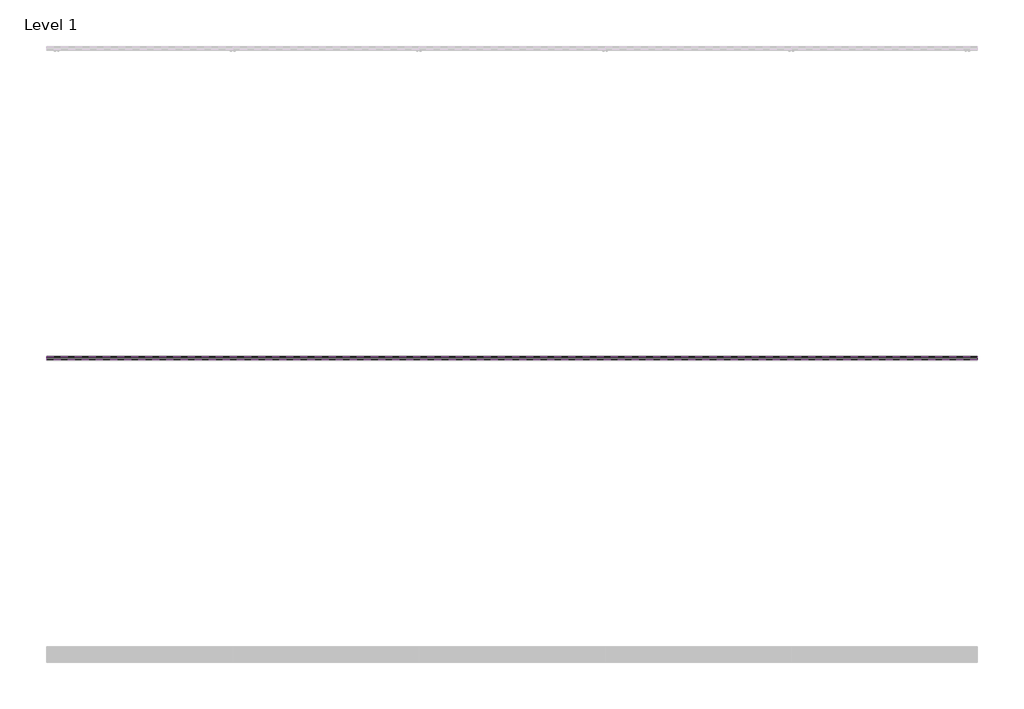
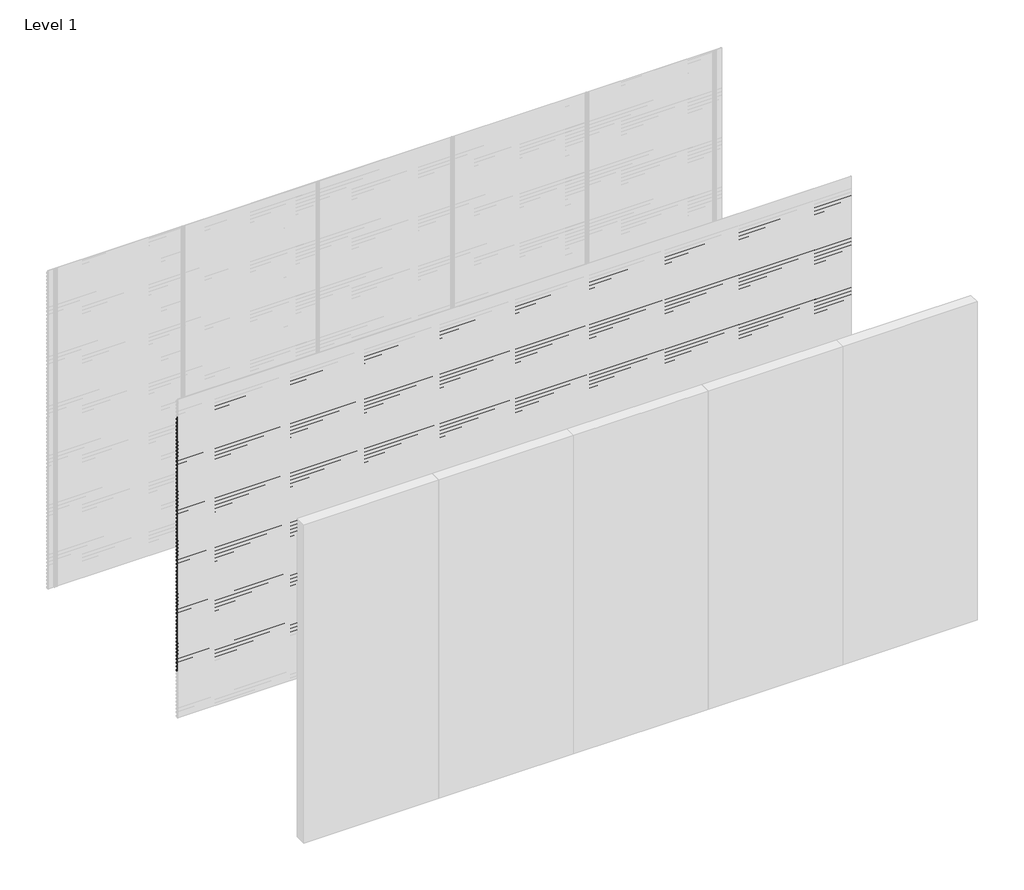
# One storey, part 71 of 77: 72 proxies.
"""IFC4 building model written with IfcOpenShell, lengths in millimetres."""

from ifc_helpers import new_model, si_unit, frame, origin, place, context, project, spatial, polyline, outline, extrude, element, save

model = new_model("IFC4")

# Units and contexts
model_context = context("Model", 3, world=origin())
ifc_project = project(units=[si_unit("LENGTHUNIT", "METRE", prefix="MILLI")], contexts=[model_context])

# Site, building, storey
site = spatial("IfcSite", under=ifc_project)
building = spatial("IfcBuilding", under=site)
storey = spatial("IfcBuildingStorey", under=building, Name="Level 1", Elevation=0.0)

# Proxies
placement = place(None, origin())
element("IfcBuildingElementProxy", 1, Name="Wall Sweeps", at=placement, inside=storey, context=model_context, shape_type="SweptSolid", body=[
    extrude(outline(polyline([(-1978.6, 2806.0359887), (-1998.0, 2817.2366691), (-1998.0, 2830.5), (-1997.0, 2830.5), (-1997.0, 2817.8191057), (-1977.6, 2806.6185105), (-1977.6, 2793.0185105), (-1978.6, 2794.5953129), (-1978.6, 2800.4032062), (-1995.9773817, 2792.3), (-1996.4, 2793.2063078), (-1978.6, 2801.5065841), (-1978.6, 2806.0359887)])), frame((0.0, 0.0, 0.0), z_axis=(1.0, 0.0, 0.0), x_axis=(0.0, 1.0, 0.0)), (0.0, 0.0, 1.0), 6000.0),
])
element("IfcBuildingElementProxy", 2, Name="Wall Sweeps", at=placement, inside=storey, context=model_context, shape_type="SweptSolid", body=[
    extrude(outline(polyline([(-1978.6, 2772.7359887), (-1998.0, 2783.9366691), (-1998.0, 2797.2), (-1997.0, 2797.2), (-1997.0, 2784.5191057), (-1977.6, 2773.3185105), (-1977.6, 2759.7185105), (-1978.6, 2761.2953129), (-1978.6, 2767.1032062), (-1995.9773817, 2759.0), (-1996.4, 2759.9063078), (-1978.6, 2768.2065841), (-1978.6, 2772.7359887)])), frame((0.0, 0.0, 0.0), z_axis=(1.0, 0.0, 0.0), x_axis=(0.0, 1.0, 0.0)), (0.0, 0.0, 1.0), 6000.0),
])
element("IfcBuildingElementProxy", 3, Name="Wall Sweeps", at=placement, inside=storey, context=model_context, shape_type="SweptSolid", body=[
    extrude(outline(polyline([(-1978.6, 2739.4359887), (-1998.0, 2750.6366691), (-1998.0, 2763.9), (-1997.0, 2763.9), (-1997.0, 2751.2191057), (-1977.6, 2740.0185105), (-1977.6, 2726.4185105), (-1978.6, 2727.9953129), (-1978.6, 2733.8032062), (-1995.9773817, 2725.7), (-1996.4, 2726.6063078), (-1978.6, 2734.9065841), (-1978.6, 2739.4359887)])), frame((0.0, 0.0, 0.0), z_axis=(1.0, 0.0, 0.0), x_axis=(0.0, 1.0, 0.0)), (0.0, 0.0, 1.0), 6000.0),
])
element("IfcBuildingElementProxy", 4, Name="Wall Sweeps", at=placement, inside=storey, context=model_context, shape_type="SweptSolid", body=[
    extrude(outline(polyline([(-1978.6, 2706.1359887), (-1998.0, 2717.3366691), (-1998.0, 2730.6), (-1997.0, 2730.6), (-1997.0, 2717.9191057), (-1977.6, 2706.7185105), (-1977.6, 2693.1185105), (-1978.6, 2694.6953129), (-1978.6, 2700.5032062), (-1995.9773817, 2692.4), (-1996.4, 2693.3063078), (-1978.6, 2701.6065841), (-1978.6, 2706.1359887)])), frame((0.0, 0.0, 0.0), z_axis=(1.0, 0.0, 0.0), x_axis=(0.0, 1.0, 0.0)), (0.0, 0.0, 1.0), 6000.0),
])
element("IfcBuildingElementProxy", 5, Name="Wall Sweeps", at=placement, inside=storey, context=model_context, shape_type="SweptSolid", body=[
    extrude(outline(polyline([(-1978.6, 2672.8359887), (-1998.0, 2684.0366691), (-1998.0, 2697.3), (-1997.0, 2697.3), (-1997.0, 2684.6191057), (-1977.6, 2673.4185105), (-1977.6, 2659.8185105), (-1978.6, 2661.3953129), (-1978.6, 2667.2032062), (-1995.9773817, 2659.1), (-1996.4, 2660.0063078), (-1978.6, 2668.3065841), (-1978.6, 2672.8359887)])), frame((0.0, 0.0, 0.0), z_axis=(1.0, 0.0, 0.0), x_axis=(0.0, 1.0, 0.0)), (0.0, 0.0, 1.0), 6000.0),
])
element("IfcBuildingElementProxy", 6, Name="Wall Sweeps", at=placement, inside=storey, context=model_context, shape_type="SweptSolid", body=[
    extrude(outline(polyline([(-1978.6, 2639.5359887), (-1998.0, 2650.7366691), (-1998.0, 2664.0), (-1997.0, 2664.0), (-1997.0, 2651.3191057), (-1977.6, 2640.1185105), (-1977.6, 2626.5185105), (-1978.6, 2628.0953129), (-1978.6, 2633.9032062), (-1995.9773817, 2625.8), (-1996.4, 2626.7063078), (-1978.6, 2635.0065841), (-1978.6, 2639.5359887)])), frame((0.0, 0.0, 0.0), z_axis=(1.0, 0.0, 0.0), x_axis=(0.0, 1.0, 0.0)), (0.0, 0.0, 1.0), 6000.0),
])
element("IfcBuildingElementProxy", 7, Name="Wall Sweeps", at=placement, inside=storey, context=model_context, shape_type="SweptSolid", body=[
    extrude(outline(polyline([(-1978.6, 2606.2359887), (-1998.0, 2617.4366691), (-1998.0, 2630.7), (-1997.0, 2630.7), (-1997.0, 2618.0191057), (-1977.6, 2606.8185105), (-1977.6, 2593.2185105), (-1978.6, 2594.7953129), (-1978.6, 2600.6032062), (-1995.9773817, 2592.5), (-1996.4, 2593.4063078), (-1978.6, 2601.7065841), (-1978.6, 2606.2359887)])), frame((0.0, 0.0, 0.0), z_axis=(1.0, 0.0, 0.0), x_axis=(0.0, 1.0, 0.0)), (0.0, 0.0, 1.0), 6000.0),
])
element("IfcBuildingElementProxy", 8, Name="Wall Sweeps", at=placement, inside=storey, context=model_context, shape_type="SweptSolid", body=[
    extrude(outline(polyline([(-1978.6, 2572.9359887), (-1998.0, 2584.1366691), (-1998.0, 2597.4), (-1997.0, 2597.4), (-1997.0, 2584.7191057), (-1977.6, 2573.5185105), (-1977.6, 2559.9185105), (-1978.6, 2561.4953129), (-1978.6, 2567.3032062), (-1995.9773817, 2559.2), (-1996.4, 2560.1063078), (-1978.6, 2568.4065841), (-1978.6, 2572.9359887)])), frame((0.0, 0.0, 0.0), z_axis=(1.0, 0.0, 0.0), x_axis=(0.0, 1.0, 0.0)), (0.0, 0.0, 1.0), 6000.0),
])
element("IfcBuildingElementProxy", 9, Name="Wall Sweeps", at=placement, inside=storey, context=model_context, shape_type="SweptSolid", body=[
    extrude(outline(polyline([(-1978.6, 2539.6359887), (-1998.0, 2550.8366691), (-1998.0, 2564.1), (-1997.0, 2564.1), (-1997.0, 2551.4191057), (-1977.6, 2540.2185105), (-1977.6, 2526.6185105), (-1978.6, 2528.1953129), (-1978.6, 2534.0032062), (-1995.9773817, 2525.9), (-1996.4, 2526.8063078), (-1978.6, 2535.1065841), (-1978.6, 2539.6359887)])), frame((0.0, 0.0, 0.0), z_axis=(1.0, 0.0, 0.0), x_axis=(0.0, 1.0, 0.0)), (0.0, 0.0, 1.0), 6000.0),
])
element("IfcBuildingElementProxy", 10, Name="Wall Sweeps", at=placement, inside=storey, context=model_context, shape_type="SweptSolid", body=[
    extrude(outline(polyline([(-1978.6, 2506.3359887), (-1998.0, 2517.5366691), (-1998.0, 2530.8), (-1997.0, 2530.8), (-1997.0, 2518.1191057), (-1977.6, 2506.9185105), (-1977.6, 2493.3185105), (-1978.6, 2494.8953129), (-1978.6, 2500.7032062), (-1995.9773817, 2492.6), (-1996.4, 2493.5063078), (-1978.6, 2501.8065841), (-1978.6, 2506.3359887)])), frame((0.0, 0.0, 0.0), z_axis=(1.0, 0.0, 0.0), x_axis=(0.0, 1.0, 0.0)), (0.0, 0.0, 1.0), 6000.0),
])
element("IfcBuildingElementProxy", 11, Name="Wall Sweeps", at=placement, inside=storey, context=model_context, shape_type="SweptSolid", body=[
    extrude(outline(polyline([(-1978.6, 2473.0359887), (-1998.0, 2484.2366691), (-1998.0, 2497.5), (-1997.0, 2497.5), (-1997.0, 2484.8191057), (-1977.6, 2473.6185105), (-1977.6, 2460.0185105), (-1978.6, 2461.5953129), (-1978.6, 2467.4032062), (-1995.9773817, 2459.3), (-1996.4, 2460.2063078), (-1978.6, 2468.5065841), (-1978.6, 2473.0359887)])), frame((0.0, 0.0, 0.0), z_axis=(1.0, 0.0, 0.0), x_axis=(0.0, 1.0, 0.0)), (0.0, 0.0, 1.0), 6000.0),
])
element("IfcBuildingElementProxy", 12, Name="Wall Sweeps", at=placement, inside=storey, context=model_context, shape_type="SweptSolid", body=[
    extrude(outline(polyline([(-1978.6, 2439.7359887), (-1998.0, 2450.9366691), (-1998.0, 2464.2), (-1997.0, 2464.2), (-1997.0, 2451.5191057), (-1977.6, 2440.3185105), (-1977.6, 2426.7185105), (-1978.6, 2428.2953129), (-1978.6, 2434.1032062), (-1995.9773817, 2426.0), (-1996.4, 2426.9063078), (-1978.6, 2435.2065841), (-1978.6, 2439.7359887)])), frame((0.0, 0.0, 0.0), z_axis=(1.0, 0.0, 0.0), x_axis=(0.0, 1.0, 0.0)), (0.0, 0.0, 1.0), 6000.0),
])
element("IfcBuildingElementProxy", 13, Name="Wall Sweeps", at=placement, inside=storey, context=model_context, shape_type="SweptSolid", body=[
    extrude(outline(polyline([(-1978.6, 2406.4359887), (-1998.0, 2417.6366691), (-1998.0, 2430.9), (-1997.0, 2430.9), (-1997.0, 2418.2191057), (-1977.6, 2407.0185105), (-1977.6, 2393.4185105), (-1978.6, 2394.9953129), (-1978.6, 2400.8032062), (-1995.9773817, 2392.7), (-1996.4, 2393.6063078), (-1978.6, 2401.9065841), (-1978.6, 2406.4359887)])), frame((0.0, 0.0, 0.0), z_axis=(1.0, 0.0, 0.0), x_axis=(0.0, 1.0, 0.0)), (0.0, 0.0, 1.0), 6000.0),
])
element("IfcBuildingElementProxy", 14, Name="Wall Sweeps", at=placement, inside=storey, context=model_context, shape_type="SweptSolid", body=[
    extrude(outline(polyline([(-1978.6, 2373.1359887), (-1998.0, 2384.3366691), (-1998.0, 2397.6), (-1997.0, 2397.6), (-1997.0, 2384.9191057), (-1977.6, 2373.7185105), (-1977.6, 2360.1185105), (-1978.6, 2361.6953129), (-1978.6, 2367.5032062), (-1995.9773817, 2359.4), (-1996.4, 2360.3063078), (-1978.6, 2368.6065841), (-1978.6, 2373.1359887)])), frame((0.0, 0.0, 0.0), z_axis=(1.0, 0.0, 0.0), x_axis=(0.0, 1.0, 0.0)), (0.0, 0.0, 1.0), 6000.0),
])
element("IfcBuildingElementProxy", 15, Name="Wall Sweeps", at=placement, inside=storey, context=model_context, shape_type="SweptSolid", body=[
    extrude(outline(polyline([(-1978.6, 2339.8359887), (-1998.0, 2351.0366691), (-1998.0, 2364.3), (-1997.0, 2364.3), (-1997.0, 2351.6191057), (-1977.6, 2340.4185105), (-1977.6, 2326.8185105), (-1978.6, 2328.3953129), (-1978.6, 2334.2032062), (-1995.9773817, 2326.1), (-1996.4, 2327.0063078), (-1978.6, 2335.3065841), (-1978.6, 2339.8359887)])), frame((0.0, 0.0, 0.0), z_axis=(1.0, 0.0, 0.0), x_axis=(0.0, 1.0, 0.0)), (0.0, 0.0, 1.0), 6000.0),
])
element("IfcBuildingElementProxy", 16, Name="Wall Sweeps", at=placement, inside=storey, context=model_context, shape_type="SweptSolid", body=[
    extrude(outline(polyline([(-1978.6, 2306.5359887), (-1998.0, 2317.7366691), (-1998.0, 2331.0), (-1997.0, 2331.0), (-1997.0, 2318.3191057), (-1977.6, 2307.1185105), (-1977.6, 2293.5185105), (-1978.6, 2295.0953129), (-1978.6, 2300.9032062), (-1995.9773817, 2292.8), (-1996.4, 2293.7063078), (-1978.6, 2302.0065841), (-1978.6, 2306.5359887)])), frame((0.0, 0.0, 0.0), z_axis=(1.0, 0.0, 0.0), x_axis=(0.0, 1.0, 0.0)), (0.0, 0.0, 1.0), 6000.0),
])
element("IfcBuildingElementProxy", 17, Name="Wall Sweeps", at=placement, inside=storey, context=model_context, shape_type="SweptSolid", body=[
    extrude(outline(polyline([(-1978.6, 2273.2359887), (-1998.0, 2284.4366691), (-1998.0, 2297.7), (-1997.0, 2297.7), (-1997.0, 2285.0191057), (-1977.6, 2273.8185105), (-1977.6, 2260.2185105), (-1978.6, 2261.7953129), (-1978.6, 2267.6032062), (-1995.9773817, 2259.5), (-1996.4, 2260.4063078), (-1978.6, 2268.7065841), (-1978.6, 2273.2359887)])), frame((0.0, 0.0, 0.0), z_axis=(1.0, 0.0, 0.0), x_axis=(0.0, 1.0, 0.0)), (0.0, 0.0, 1.0), 6000.0),
])
element("IfcBuildingElementProxy", 18, Name="Wall Sweeps", at=placement, inside=storey, context=model_context, shape_type="SweptSolid", body=[
    extrude(outline(polyline([(-1978.6, 2239.9359887), (-1998.0, 2251.1366691), (-1998.0, 2264.4), (-1997.0, 2264.4), (-1997.0, 2251.7191057), (-1977.6, 2240.5185105), (-1977.6, 2226.9185105), (-1978.6, 2228.4953129), (-1978.6, 2234.3032062), (-1995.9773817, 2226.2), (-1996.4, 2227.1063078), (-1978.6, 2235.4065841), (-1978.6, 2239.9359887)])), frame((0.0, 0.0, 0.0), z_axis=(1.0, 0.0, 0.0), x_axis=(0.0, 1.0, 0.0)), (0.0, 0.0, 1.0), 6000.0),
])
element("IfcBuildingElementProxy", 19, Name="Wall Sweeps", at=placement, inside=storey, context=model_context, shape_type="SweptSolid", body=[
    extrude(outline(polyline([(-1978.6, 2206.6359887), (-1998.0, 2217.8366691), (-1998.0, 2231.1), (-1997.0, 2231.1), (-1997.0, 2218.4191057), (-1977.6, 2207.2185105), (-1977.6, 2193.6185105), (-1978.6, 2195.1953129), (-1978.6, 2201.0032062), (-1995.9773817, 2192.9), (-1996.4, 2193.8063078), (-1978.6, 2202.1065841), (-1978.6, 2206.6359887)])), frame((0.0, 0.0, 0.0), z_axis=(1.0, 0.0, 0.0), x_axis=(0.0, 1.0, 0.0)), (0.0, 0.0, 1.0), 6000.0),
])
element("IfcBuildingElementProxy", 20, Name="Wall Sweeps", at=placement, inside=storey, context=model_context, shape_type="SweptSolid", body=[
    extrude(outline(polyline([(-1978.6, 2173.3359887), (-1998.0, 2184.5366691), (-1998.0, 2197.8), (-1997.0, 2197.8), (-1997.0, 2185.1191057), (-1977.6, 2173.9185105), (-1977.6, 2160.3185105), (-1978.6, 2161.8953129), (-1978.6, 2167.7032062), (-1995.9773817, 2159.6), (-1996.4, 2160.5063078), (-1978.6, 2168.8065841), (-1978.6, 2173.3359887)])), frame((0.0, 0.0, 0.0), z_axis=(1.0, 0.0, 0.0), x_axis=(0.0, 1.0, 0.0)), (0.0, 0.0, 1.0), 6000.0),
])
element("IfcBuildingElementProxy", 21, Name="Wall Sweeps", at=placement, inside=storey, context=model_context, shape_type="SweptSolid", body=[
    extrude(outline(polyline([(-1978.6, 2140.0359887), (-1998.0, 2151.2366691), (-1998.0, 2164.5), (-1997.0, 2164.5), (-1997.0, 2151.8191057), (-1977.6, 2140.6185105), (-1977.6, 2127.0185105), (-1978.6, 2128.5953129), (-1978.6, 2134.4032062), (-1995.9773817, 2126.3), (-1996.4, 2127.2063078), (-1978.6, 2135.5065841), (-1978.6, 2140.0359887)])), frame((0.0, 0.0, 0.0), z_axis=(1.0, 0.0, 0.0), x_axis=(0.0, 1.0, 0.0)), (0.0, 0.0, 1.0), 6000.0),
])
element("IfcBuildingElementProxy", 22, Name="Wall Sweeps", at=placement, inside=storey, context=model_context, shape_type="SweptSolid", body=[
    extrude(outline(polyline([(-1978.6, 2106.7359887), (-1998.0, 2117.9366691), (-1998.0, 2131.2), (-1997.0, 2131.2), (-1997.0, 2118.5191057), (-1977.6, 2107.3185105), (-1977.6, 2093.7185105), (-1978.6, 2095.2953129), (-1978.6, 2101.1032062), (-1995.9773817, 2093.0), (-1996.4, 2093.9063078), (-1978.6, 2102.2065841), (-1978.6, 2106.7359887)])), frame((0.0, 0.0, 0.0), z_axis=(1.0, 0.0, 0.0), x_axis=(0.0, 1.0, 0.0)), (0.0, 0.0, 1.0), 6000.0),
])
element("IfcBuildingElementProxy", 23, Name="Wall Sweeps", at=placement, inside=storey, context=model_context, shape_type="SweptSolid", body=[
    extrude(outline(polyline([(-1978.6, 2073.4359887), (-1998.0, 2084.6366691), (-1998.0, 2097.9), (-1997.0, 2097.9), (-1997.0, 2085.2191057), (-1977.6, 2074.0185105), (-1977.6, 2060.4185105), (-1978.6, 2061.9953129), (-1978.6, 2067.8032062), (-1995.9773817, 2059.7), (-1996.4, 2060.6063078), (-1978.6, 2068.9065841), (-1978.6, 2073.4359887)])), frame((0.0, 0.0, 0.0), z_axis=(1.0, 0.0, 0.0), x_axis=(0.0, 1.0, 0.0)), (0.0, 0.0, 1.0), 6000.0),
])
element("IfcBuildingElementProxy", 24, Name="Wall Sweeps", at=placement, inside=storey, context=model_context, shape_type="SweptSolid", body=[
    extrude(outline(polyline([(-1978.6, 2040.1359887), (-1998.0, 2051.3366691), (-1998.0, 2064.6), (-1997.0, 2064.6), (-1997.0, 2051.9191057), (-1977.6, 2040.7185105), (-1977.6, 2027.1185105), (-1978.6, 2028.6953129), (-1978.6, 2034.5032062), (-1995.9773817, 2026.4), (-1996.4, 2027.3063078), (-1978.6, 2035.6065841), (-1978.6, 2040.1359887)])), frame((0.0, 0.0, 0.0), z_axis=(1.0, 0.0, 0.0), x_axis=(0.0, 1.0, 0.0)), (0.0, 0.0, 1.0), 6000.0),
])
element("IfcBuildingElementProxy", 25, Name="Wall Sweeps", at=placement, inside=storey, context=model_context, shape_type="SweptSolid", body=[
    extrude(outline(polyline([(-1978.6, 2006.8359887), (-1998.0, 2018.0366691), (-1998.0, 2031.3), (-1997.0, 2031.3), (-1997.0, 2018.6191057), (-1977.6, 2007.4185105), (-1977.6, 1993.8185105), (-1978.6, 1995.3953129), (-1978.6, 2001.2032062), (-1995.9773817, 1993.1), (-1996.4, 1994.0063078), (-1978.6, 2002.3065841), (-1978.6, 2006.8359887)])), frame((0.0, 0.0, 0.0), z_axis=(1.0, 0.0, 0.0), x_axis=(0.0, 1.0, 0.0)), (0.0, 0.0, 1.0), 6000.0),
])
element("IfcBuildingElementProxy", 26, Name="Wall Sweeps", at=placement, inside=storey, context=model_context, shape_type="SweptSolid", body=[
    extrude(outline(polyline([(-1978.6, 1973.5359887), (-1998.0, 1984.7366691), (-1998.0, 1998.0), (-1997.0, 1998.0), (-1997.0, 1985.3191057), (-1977.6, 1974.1185105), (-1977.6, 1960.5185105), (-1978.6, 1962.0953129), (-1978.6, 1967.9032062), (-1995.9773817, 1959.8), (-1996.4, 1960.7063078), (-1978.6, 1969.0065841), (-1978.6, 1973.5359887)])), frame((0.0, 0.0, 0.0), z_axis=(1.0, 0.0, 0.0), x_axis=(0.0, 1.0, 0.0)), (0.0, 0.0, 1.0), 6000.0),
])
element("IfcBuildingElementProxy", 27, Name="Wall Sweeps", at=placement, inside=storey, context=model_context, shape_type="SweptSolid", body=[
    extrude(outline(polyline([(-1978.6, 1940.2359887), (-1998.0, 1951.4366691), (-1998.0, 1964.7), (-1997.0, 1964.7), (-1997.0, 1952.0191057), (-1977.6, 1940.8185105), (-1977.6, 1927.2185105), (-1978.6, 1928.7953129), (-1978.6, 1934.6032062), (-1995.9773817, 1926.5), (-1996.4, 1927.4063078), (-1978.6, 1935.7065841), (-1978.6, 1940.2359887)])), frame((0.0, 0.0, 0.0), z_axis=(1.0, 0.0, 0.0), x_axis=(0.0, 1.0, 0.0)), (0.0, 0.0, 1.0), 6000.0),
])
element("IfcBuildingElementProxy", 28, Name="Wall Sweeps", at=placement, inside=storey, context=model_context, shape_type="SweptSolid", body=[
    extrude(outline(polyline([(-1978.6, 1906.9359887), (-1998.0, 1918.1366691), (-1998.0, 1931.4), (-1997.0, 1931.4), (-1997.0, 1918.7191057), (-1977.6, 1907.5185105), (-1977.6, 1893.9185105), (-1978.6, 1895.4953129), (-1978.6, 1901.3032062), (-1995.9773817, 1893.2), (-1996.4, 1894.1063078), (-1978.6, 1902.4065841), (-1978.6, 1906.9359887)])), frame((0.0, 0.0, 0.0), z_axis=(1.0, 0.0, 0.0), x_axis=(0.0, 1.0, 0.0)), (0.0, 0.0, 1.0), 6000.0),
])
element("IfcBuildingElementProxy", 29, Name="Wall Sweeps", at=placement, inside=storey, context=model_context, shape_type="SweptSolid", body=[
    extrude(outline(polyline([(-1978.6, 1873.6359887), (-1998.0, 1884.8366691), (-1998.0, 1898.1), (-1997.0, 1898.1), (-1997.0, 1885.4191057), (-1977.6, 1874.2185105), (-1977.6, 1860.6185105), (-1978.6, 1862.1953129), (-1978.6, 1868.0032062), (-1995.9773817, 1859.9), (-1996.4, 1860.8063078), (-1978.6, 1869.1065841), (-1978.6, 1873.6359887)])), frame((0.0, 0.0, 0.0), z_axis=(1.0, 0.0, 0.0), x_axis=(0.0, 1.0, 0.0)), (0.0, 0.0, 1.0), 6000.0),
])
element("IfcBuildingElementProxy", 30, Name="Wall Sweeps", at=placement, inside=storey, context=model_context, shape_type="SweptSolid", body=[
    extrude(outline(polyline([(-1978.6, 1840.3359887), (-1998.0, 1851.5366691), (-1998.0, 1864.8), (-1997.0, 1864.8), (-1997.0, 1852.1191057), (-1977.6, 1840.9185105), (-1977.6, 1827.3185105), (-1978.6, 1828.8953129), (-1978.6, 1834.7032062), (-1995.9773817, 1826.6), (-1996.4, 1827.5063078), (-1978.6, 1835.8065841), (-1978.6, 1840.3359887)])), frame((0.0, 0.0, 0.0), z_axis=(1.0, 0.0, 0.0), x_axis=(0.0, 1.0, 0.0)), (0.0, 0.0, 1.0), 6000.0),
])
element("IfcBuildingElementProxy", 31, Name="Wall Sweeps", at=placement, inside=storey, context=model_context, shape_type="SweptSolid", body=[
    extrude(outline(polyline([(-1978.6, 1807.0359887), (-1998.0, 1818.2366691), (-1998.0, 1831.5), (-1997.0, 1831.5), (-1997.0, 1818.8191057), (-1977.6, 1807.6185105), (-1977.6, 1794.0185105), (-1978.6, 1795.5953129), (-1978.6, 1801.4032062), (-1995.9773817, 1793.3), (-1996.4, 1794.2063078), (-1978.6, 1802.5065841), (-1978.6, 1807.0359887)])), frame((0.0, 0.0, 0.0), z_axis=(1.0, 0.0, 0.0), x_axis=(0.0, 1.0, 0.0)), (0.0, 0.0, 1.0), 6000.0),
])
element("IfcBuildingElementProxy", 32, Name="Wall Sweeps", at=placement, inside=storey, context=model_context, shape_type="SweptSolid", body=[
    extrude(outline(polyline([(-1978.6, 1773.7359887), (-1998.0, 1784.9366691), (-1998.0, 1798.2), (-1997.0, 1798.2), (-1997.0, 1785.5191057), (-1977.6, 1774.3185105), (-1977.6, 1760.7185105), (-1978.6, 1762.2953129), (-1978.6, 1768.1032062), (-1995.9773817, 1760.0), (-1996.4, 1760.9063078), (-1978.6, 1769.2065841), (-1978.6, 1773.7359887)])), frame((0.0, 0.0, 0.0), z_axis=(1.0, 0.0, 0.0), x_axis=(0.0, 1.0, 0.0)), (0.0, 0.0, 1.0), 6000.0),
])
element("IfcBuildingElementProxy", 33, Name="Wall Sweeps", at=placement, inside=storey, context=model_context, shape_type="SweptSolid", body=[
    extrude(outline(polyline([(-1978.6, 1740.4359887), (-1998.0, 1751.6366691), (-1998.0, 1764.9), (-1997.0, 1764.9), (-1997.0, 1752.2191057), (-1977.6, 1741.0185105), (-1977.6, 1727.4185105), (-1978.6, 1728.9953129), (-1978.6, 1734.8032062), (-1995.9773817, 1726.7), (-1996.4, 1727.6063078), (-1978.6, 1735.9065841), (-1978.6, 1740.4359887)])), frame((0.0, 0.0, 0.0), z_axis=(1.0, 0.0, 0.0), x_axis=(0.0, 1.0, 0.0)), (0.0, 0.0, 1.0), 6000.0),
])
element("IfcBuildingElementProxy", 34, Name="Wall Sweeps", at=placement, inside=storey, context=model_context, shape_type="SweptSolid", body=[
    extrude(outline(polyline([(-1978.6, 1707.1359887), (-1998.0, 1718.3366691), (-1998.0, 1731.6), (-1997.0, 1731.6), (-1997.0, 1718.9191057), (-1977.6, 1707.7185105), (-1977.6, 1694.1185105), (-1978.6, 1695.6953129), (-1978.6, 1701.5032062), (-1995.9773817, 1693.4), (-1996.4, 1694.3063078), (-1978.6, 1702.6065841), (-1978.6, 1707.1359887)])), frame((0.0, 0.0, 0.0), z_axis=(1.0, 0.0, 0.0), x_axis=(0.0, 1.0, 0.0)), (0.0, 0.0, 1.0), 6000.0),
])
element("IfcBuildingElementProxy", 35, Name="Wall Sweeps", at=placement, inside=storey, context=model_context, shape_type="SweptSolid", body=[
    extrude(outline(polyline([(-1978.6, 1673.8359887), (-1998.0, 1685.0366691), (-1998.0, 1698.3), (-1997.0, 1698.3), (-1997.0, 1685.6191057), (-1977.6, 1674.4185105), (-1977.6, 1660.8185105), (-1978.6, 1662.3953129), (-1978.6, 1668.2032062), (-1995.9773817, 1660.1), (-1996.4, 1661.0063078), (-1978.6, 1669.3065841), (-1978.6, 1673.8359887)])), frame((0.0, 0.0, 0.0), z_axis=(1.0, 0.0, 0.0), x_axis=(0.0, 1.0, 0.0)), (0.0, 0.0, 1.0), 6000.0),
])
element("IfcBuildingElementProxy", 36, Name="Wall Sweeps", at=placement, inside=storey, context=model_context, shape_type="SweptSolid", body=[
    extrude(outline(polyline([(-1978.6, 1640.5359887), (-1998.0, 1651.7366691), (-1998.0, 1665.0), (-1997.0, 1665.0), (-1997.0, 1652.3191057), (-1977.6, 1641.1185105), (-1977.6, 1627.5185105), (-1978.6, 1629.0953129), (-1978.6, 1634.9032062), (-1995.9773817, 1626.8), (-1996.4, 1627.7063078), (-1978.6, 1636.0065841), (-1978.6, 1640.5359887)])), frame((0.0, 0.0, 0.0), z_axis=(1.0, 0.0, 0.0), x_axis=(0.0, 1.0, 0.0)), (0.0, 0.0, 1.0), 6000.0),
])
element("IfcBuildingElementProxy", 37, Name="Wall Sweeps", at=placement, inside=storey, context=model_context, shape_type="SweptSolid", body=[
    extrude(outline(polyline([(-1978.6, 1607.2359887), (-1998.0, 1618.4366691), (-1998.0, 1631.7), (-1997.0, 1631.7), (-1997.0, 1619.0191057), (-1977.6, 1607.8185105), (-1977.6, 1594.2185105), (-1978.6, 1595.7953129), (-1978.6, 1601.6032062), (-1995.9773817, 1593.5), (-1996.4, 1594.4063078), (-1978.6, 1602.7065841), (-1978.6, 1607.2359887)])), frame((0.0, 0.0, 0.0), z_axis=(1.0, 0.0, 0.0), x_axis=(0.0, 1.0, 0.0)), (0.0, 0.0, 1.0), 6000.0),
])
element("IfcBuildingElementProxy", 38, Name="Wall Sweeps", at=placement, inside=storey, context=model_context, shape_type="SweptSolid", body=[
    extrude(outline(polyline([(-1978.6, 1573.9359887), (-1998.0, 1585.1366691), (-1998.0, 1598.4), (-1997.0, 1598.4), (-1997.0, 1585.7191057), (-1977.6, 1574.5185105), (-1977.6, 1560.9185105), (-1978.6, 1562.4953129), (-1978.6, 1568.3032062), (-1995.9773817, 1560.2), (-1996.4, 1561.1063078), (-1978.6, 1569.4065841), (-1978.6, 1573.9359887)])), frame((0.0, 0.0, 0.0), z_axis=(1.0, 0.0, 0.0), x_axis=(0.0, 1.0, 0.0)), (0.0, 0.0, 1.0), 6000.0),
])
element("IfcBuildingElementProxy", 39, Name="Wall Sweeps", at=placement, inside=storey, context=model_context, shape_type="SweptSolid", body=[
    extrude(outline(polyline([(-1978.6, 1540.6359887), (-1998.0, 1551.8366691), (-1998.0, 1565.1), (-1997.0, 1565.1), (-1997.0, 1552.4191057), (-1977.6, 1541.2185105), (-1977.6, 1527.6185105), (-1978.6, 1529.1953129), (-1978.6, 1535.0032062), (-1995.9773817, 1526.9), (-1996.4, 1527.8063078), (-1978.6, 1536.1065841), (-1978.6, 1540.6359887)])), frame((0.0, 0.0, 0.0), z_axis=(1.0, 0.0, 0.0), x_axis=(0.0, 1.0, 0.0)), (0.0, 0.0, 1.0), 6000.0),
])
element("IfcBuildingElementProxy", 40, Name="Wall Sweeps", at=placement, inside=storey, context=model_context, shape_type="SweptSolid", body=[
    extrude(outline(polyline([(-1978.6, 1507.3359887), (-1998.0, 1518.5366691), (-1998.0, 1531.8), (-1997.0, 1531.8), (-1997.0, 1519.1191057), (-1977.6, 1507.9185105), (-1977.6, 1494.3185105), (-1978.6, 1495.8953129), (-1978.6, 1501.7032062), (-1995.9773817, 1493.6), (-1996.4, 1494.5063078), (-1978.6, 1502.8065841), (-1978.6, 1507.3359887)])), frame((0.0, 0.0, 0.0), z_axis=(1.0, 0.0, 0.0), x_axis=(0.0, 1.0, 0.0)), (0.0, 0.0, 1.0), 6000.0),
])
element("IfcBuildingElementProxy", 41, Name="Wall Sweeps", at=placement, inside=storey, context=model_context, shape_type="SweptSolid", body=[
    extrude(outline(polyline([(-1978.6, 1474.0359887), (-1998.0, 1485.2366691), (-1998.0, 1498.5), (-1997.0, 1498.5), (-1997.0, 1485.8191057), (-1977.6, 1474.6185105), (-1977.6, 1461.0185105), (-1978.6, 1462.5953129), (-1978.6, 1468.4032062), (-1995.9773817, 1460.3), (-1996.4, 1461.2063078), (-1978.6, 1469.5065841), (-1978.6, 1474.0359887)])), frame((0.0, 0.0, 0.0), z_axis=(1.0, 0.0, 0.0), x_axis=(0.0, 1.0, 0.0)), (0.0, 0.0, 1.0), 6000.0),
])
element("IfcBuildingElementProxy", 42, Name="Wall Sweeps", at=placement, inside=storey, context=model_context, shape_type="SweptSolid", body=[
    extrude(outline(polyline([(-1978.6, 1440.7359887), (-1998.0, 1451.9366691), (-1998.0, 1465.2), (-1997.0, 1465.2), (-1997.0, 1452.5191057), (-1977.6, 1441.3185105), (-1977.6, 1427.7185105), (-1978.6, 1429.2953129), (-1978.6, 1435.1032062), (-1995.9773817, 1427.0), (-1996.4, 1427.9063078), (-1978.6, 1436.2065841), (-1978.6, 1440.7359887)])), frame((0.0, 0.0, 0.0), z_axis=(1.0, 0.0, 0.0), x_axis=(0.0, 1.0, 0.0)), (0.0, 0.0, 1.0), 6000.0),
])
element("IfcBuildingElementProxy", 43, Name="Wall Sweeps", at=placement, inside=storey, context=model_context, shape_type="SweptSolid", body=[
    extrude(outline(polyline([(-1978.6, 1407.4359887), (-1998.0, 1418.6366691), (-1998.0, 1431.9), (-1997.0, 1431.9), (-1997.0, 1419.2191057), (-1977.6, 1408.0185105), (-1977.6, 1394.4185105), (-1978.6, 1395.9953129), (-1978.6, 1401.8032062), (-1995.9773817, 1393.7), (-1996.4, 1394.6063078), (-1978.6, 1402.9065841), (-1978.6, 1407.4359887)])), frame((0.0, 0.0, 0.0), z_axis=(1.0, 0.0, 0.0), x_axis=(0.0, 1.0, 0.0)), (0.0, 0.0, 1.0), 6000.0),
])
element("IfcBuildingElementProxy", 44, Name="Wall Sweeps", at=placement, inside=storey, context=model_context, shape_type="SweptSolid", body=[
    extrude(outline(polyline([(-1978.6, 1374.1359887), (-1998.0, 1385.3366691), (-1998.0, 1398.6), (-1997.0, 1398.6), (-1997.0, 1385.9191057), (-1977.6, 1374.7185105), (-1977.6, 1361.1185105), (-1978.6, 1362.6953129), (-1978.6, 1368.5032062), (-1995.9773817, 1360.4), (-1996.4, 1361.3063078), (-1978.6, 1369.6065841), (-1978.6, 1374.1359887)])), frame((0.0, 0.0, 0.0), z_axis=(1.0, 0.0, 0.0), x_axis=(0.0, 1.0, 0.0)), (0.0, 0.0, 1.0), 6000.0),
])
element("IfcBuildingElementProxy", 45, Name="Wall Sweeps", at=placement, inside=storey, context=model_context, shape_type="SweptSolid", body=[
    extrude(outline(polyline([(-1978.6, 1340.8359887), (-1998.0, 1352.0366691), (-1998.0, 1365.3), (-1997.0, 1365.3), (-1997.0, 1352.6191057), (-1977.6, 1341.4185105), (-1977.6, 1327.8185105), (-1978.6, 1329.3953129), (-1978.6, 1335.2032062), (-1995.9773817, 1327.1), (-1996.4, 1328.0063078), (-1978.6, 1336.3065841), (-1978.6, 1340.8359887)])), frame((0.0, 0.0, 0.0), z_axis=(1.0, 0.0, 0.0), x_axis=(0.0, 1.0, 0.0)), (0.0, 0.0, 1.0), 6000.0),
])
element("IfcBuildingElementProxy", 46, Name="Wall Sweeps", at=placement, inside=storey, context=model_context, shape_type="SweptSolid", body=[
    extrude(outline(polyline([(-1978.6, 1307.5359887), (-1998.0, 1318.7366691), (-1998.0, 1332.0), (-1997.0, 1332.0), (-1997.0, 1319.3191057), (-1977.6, 1308.1185105), (-1977.6, 1294.5185105), (-1978.6, 1296.0953129), (-1978.6, 1301.9032062), (-1995.9773817, 1293.8), (-1996.4, 1294.7063078), (-1978.6, 1303.0065841), (-1978.6, 1307.5359887)])), frame((0.0, 0.0, 0.0), z_axis=(1.0, 0.0, 0.0), x_axis=(0.0, 1.0, 0.0)), (0.0, 0.0, 1.0), 6000.0),
])
element("IfcBuildingElementProxy", 47, Name="Wall Sweeps", at=placement, inside=storey, context=model_context, shape_type="SweptSolid", body=[
    extrude(outline(polyline([(-1978.6, 1274.2359887), (-1998.0, 1285.4366691), (-1998.0, 1298.7), (-1997.0, 1298.7), (-1997.0, 1286.0191057), (-1977.6, 1274.8185105), (-1977.6, 1261.2185105), (-1978.6, 1262.7953129), (-1978.6, 1268.6032062), (-1995.9773817, 1260.5), (-1996.4, 1261.4063078), (-1978.6, 1269.7065841), (-1978.6, 1274.2359887)])), frame((0.0, 0.0, 0.0), z_axis=(1.0, 0.0, 0.0), x_axis=(0.0, 1.0, 0.0)), (0.0, 0.0, 1.0), 6000.0),
])
element("IfcBuildingElementProxy", 48, Name="Wall Sweeps", at=placement, inside=storey, context=model_context, shape_type="SweptSolid", body=[
    extrude(outline(polyline([(-1978.6, 1240.9359887), (-1998.0, 1252.1366691), (-1998.0, 1265.4), (-1997.0, 1265.4), (-1997.0, 1252.7191057), (-1977.6, 1241.5185105), (-1977.6, 1227.9185105), (-1978.6, 1229.4953129), (-1978.6, 1235.3032062), (-1995.9773817, 1227.2), (-1996.4, 1228.1063078), (-1978.6, 1236.4065841), (-1978.6, 1240.9359887)])), frame((0.0, 0.0, 0.0), z_axis=(1.0, 0.0, 0.0), x_axis=(0.0, 1.0, 0.0)), (0.0, 0.0, 1.0), 6000.0),
])
element("IfcBuildingElementProxy", 49, Name="Wall Sweeps", at=placement, inside=storey, context=model_context, shape_type="SweptSolid", body=[
    extrude(outline(polyline([(-1978.6, 1207.6359887), (-1998.0, 1218.8366691), (-1998.0, 1232.1), (-1997.0, 1232.1), (-1997.0, 1219.4191057), (-1977.6, 1208.2185105), (-1977.6, 1194.6185105), (-1978.6, 1196.1953129), (-1978.6, 1202.0032062), (-1995.9773817, 1193.9), (-1996.4, 1194.8063078), (-1978.6, 1203.1065841), (-1978.6, 1207.6359887)])), frame((0.0, 0.0, 0.0), z_axis=(1.0, 0.0, 0.0), x_axis=(0.0, 1.0, 0.0)), (0.0, 0.0, 1.0), 6000.0),
])
element("IfcBuildingElementProxy", 50, Name="Wall Sweeps", at=placement, inside=storey, context=model_context, shape_type="SweptSolid", body=[
    extrude(outline(polyline([(-1978.6, 1174.3359887), (-1998.0, 1185.5366691), (-1998.0, 1198.8), (-1997.0, 1198.8), (-1997.0, 1186.1191057), (-1977.6, 1174.9185105), (-1977.6, 1161.3185105), (-1978.6, 1162.8953129), (-1978.6, 1168.7032062), (-1995.9773817, 1160.6), (-1996.4, 1161.5063078), (-1978.6, 1169.8065841), (-1978.6, 1174.3359887)])), frame((0.0, 0.0, 0.0), z_axis=(1.0, 0.0, 0.0), x_axis=(0.0, 1.0, 0.0)), (0.0, 0.0, 1.0), 6000.0),
])
element("IfcBuildingElementProxy", 51, Name="Wall Sweeps", at=placement, inside=storey, context=model_context, shape_type="SweptSolid", body=[
    extrude(outline(polyline([(-1978.6, 1141.0359887), (-1998.0, 1152.2366691), (-1998.0, 1165.5), (-1997.0, 1165.5), (-1997.0, 1152.8191057), (-1977.6, 1141.6185105), (-1977.6, 1128.0185105), (-1978.6, 1129.5953129), (-1978.6, 1135.4032062), (-1995.9773817, 1127.3), (-1996.4, 1128.2063078), (-1978.6, 1136.5065841), (-1978.6, 1141.0359887)])), frame((0.0, 0.0, 0.0), z_axis=(1.0, 0.0, 0.0), x_axis=(0.0, 1.0, 0.0)), (0.0, 0.0, 1.0), 6000.0),
])
element("IfcBuildingElementProxy", 52, Name="Wall Sweeps", at=placement, inside=storey, context=model_context, shape_type="SweptSolid", body=[
    extrude(outline(polyline([(-1978.6, 1107.7359887), (-1998.0, 1118.9366691), (-1998.0, 1132.2), (-1997.0, 1132.2), (-1997.0, 1119.5191057), (-1977.6, 1108.3185105), (-1977.6, 1094.7185105), (-1978.6, 1096.2953129), (-1978.6, 1102.1032062), (-1995.9773817, 1094.0), (-1996.4, 1094.9063078), (-1978.6, 1103.2065841), (-1978.6, 1107.7359887)])), frame((0.0, 0.0, 0.0), z_axis=(1.0, 0.0, 0.0), x_axis=(0.0, 1.0, 0.0)), (0.0, 0.0, 1.0), 6000.0),
])
element("IfcBuildingElementProxy", 53, Name="Wall Sweeps", at=placement, inside=storey, context=model_context, shape_type="SweptSolid", body=[
    extrude(outline(polyline([(-1978.6, 1074.4359887), (-1998.0, 1085.6366691), (-1998.0, 1098.9), (-1997.0, 1098.9), (-1997.0, 1086.2191057), (-1977.6, 1075.0185105), (-1977.6, 1061.4185105), (-1978.6, 1062.9953129), (-1978.6, 1068.8032062), (-1995.9773817, 1060.7), (-1996.4, 1061.6063078), (-1978.6, 1069.9065841), (-1978.6, 1074.4359887)])), frame((0.0, 0.0, 0.0), z_axis=(1.0, 0.0, 0.0), x_axis=(0.0, 1.0, 0.0)), (0.0, 0.0, 1.0), 6000.0),
])
element("IfcBuildingElementProxy", 54, Name="Wall Sweeps", at=placement, inside=storey, context=model_context, shape_type="SweptSolid", body=[
    extrude(outline(polyline([(-1978.6, 1041.1359887), (-1998.0, 1052.3366691), (-1998.0, 1065.6), (-1997.0, 1065.6), (-1997.0, 1052.9191057), (-1977.6, 1041.7185105), (-1977.6, 1028.1185105), (-1978.6, 1029.6953129), (-1978.6, 1035.5032062), (-1995.9773817, 1027.4), (-1996.4, 1028.3063078), (-1978.6, 1036.6065841), (-1978.6, 1041.1359887)])), frame((0.0, 0.0, 0.0), z_axis=(1.0, 0.0, 0.0), x_axis=(0.0, 1.0, 0.0)), (0.0, 0.0, 1.0), 6000.0),
])
element("IfcBuildingElementProxy", 55, Name="Wall Sweeps", at=placement, inside=storey, context=model_context, shape_type="SweptSolid", body=[
    extrude(outline(polyline([(-1978.6, 1007.8359887), (-1998.0, 1019.0366691), (-1998.0, 1032.3), (-1997.0, 1032.3), (-1997.0, 1019.6191057), (-1977.6, 1008.4185105), (-1977.6, 994.8185105), (-1978.6, 996.3953129), (-1978.6, 1002.2032062), (-1995.9773817, 994.1), (-1996.4, 995.0063078), (-1978.6, 1003.3065841), (-1978.6, 1007.8359887)])), frame((0.0, 0.0, 0.0), z_axis=(1.0, 0.0, 0.0), x_axis=(0.0, 1.0, 0.0)), (0.0, 0.0, 1.0), 6000.0),
])
element("IfcBuildingElementProxy", 56, Name="Wall Sweeps", at=placement, inside=storey, context=model_context, shape_type="SweptSolid", body=[
    extrude(outline(polyline([(-1978.6, 974.5359887), (-1998.0, 985.7366691), (-1998.0, 999.0), (-1997.0, 999.0), (-1997.0, 986.3191057), (-1977.6, 975.1185105), (-1977.6, 961.5185105), (-1978.6, 963.0953129), (-1978.6, 968.9032062), (-1995.9773817, 960.8), (-1996.4, 961.7063078), (-1978.6, 970.0065841), (-1978.6, 974.5359887)])), frame((0.0, 0.0, 0.0), z_axis=(1.0, 0.0, 0.0), x_axis=(0.0, 1.0, 0.0)), (0.0, 0.0, 1.0), 6000.0),
])
element("IfcBuildingElementProxy", 57, Name="Wall Sweeps", at=placement, inside=storey, context=model_context, shape_type="SweptSolid", body=[
    extrude(outline(polyline([(-1978.6, 941.2359887), (-1998.0, 952.4366691), (-1998.0, 965.7), (-1997.0, 965.7), (-1997.0, 953.0191057), (-1977.6, 941.8185105), (-1977.6, 928.2185105), (-1978.6, 929.7953129), (-1978.6, 935.6032062), (-1995.9773817, 927.5), (-1996.4, 928.4063078), (-1978.6, 936.7065841), (-1978.6, 941.2359887)])), frame((0.0, 0.0, 0.0), z_axis=(1.0, 0.0, 0.0), x_axis=(0.0, 1.0, 0.0)), (0.0, 0.0, 1.0), 6000.0),
])
element("IfcBuildingElementProxy", 58, Name="Wall Sweeps", at=placement, inside=storey, context=model_context, shape_type="SweptSolid", body=[
    extrude(outline(polyline([(-1978.6, 907.9359887), (-1998.0, 919.1366691), (-1998.0, 932.4), (-1997.0, 932.4), (-1997.0, 919.7191057), (-1977.6, 908.5185105), (-1977.6, 894.9185105), (-1978.6, 896.4953129), (-1978.6, 902.3032062), (-1995.9773817, 894.2), (-1996.4, 895.1063078), (-1978.6, 903.4065841), (-1978.6, 907.9359887)])), frame((0.0, 0.0, 0.0), z_axis=(1.0, 0.0, 0.0), x_axis=(0.0, 1.0, 0.0)), (0.0, 0.0, 1.0), 6000.0),
])
element("IfcBuildingElementProxy", 59, Name="Wall Sweeps", at=placement, inside=storey, context=model_context, shape_type="SweptSolid", body=[
    extrude(outline(polyline([(-1978.6, 874.6359887), (-1998.0, 885.8366691), (-1998.0, 899.1), (-1997.0, 899.1), (-1997.0, 886.4191057), (-1977.6, 875.2185105), (-1977.6, 861.6185105), (-1978.6, 863.1953129), (-1978.6, 869.0032062), (-1995.9773817, 860.9), (-1996.4, 861.8063078), (-1978.6, 870.1065841), (-1978.6, 874.6359887)])), frame((0.0, 0.0, 0.0), z_axis=(1.0, 0.0, 0.0), x_axis=(0.0, 1.0, 0.0)), (0.0, 0.0, 1.0), 6000.0),
])
element("IfcBuildingElementProxy", 60, Name="Wall Sweeps", at=placement, inside=storey, context=model_context, shape_type="SweptSolid", body=[
    extrude(outline(polyline([(-1978.6, 841.3359887), (-1998.0, 852.5366691), (-1998.0, 865.8), (-1997.0, 865.8), (-1997.0, 853.1191057), (-1977.6, 841.9185105), (-1977.6, 828.3185105), (-1978.6, 829.8953129), (-1978.6, 835.7032062), (-1995.9773817, 827.6), (-1996.4, 828.5063078), (-1978.6, 836.8065841), (-1978.6, 841.3359887)])), frame((0.0, 0.0, 0.0), z_axis=(1.0, 0.0, 0.0), x_axis=(0.0, 1.0, 0.0)), (0.0, 0.0, 1.0), 6000.0),
])
element("IfcBuildingElementProxy", 61, Name="Wall Sweeps", at=placement, inside=storey, context=model_context, shape_type="SweptSolid", body=[
    extrude(outline(polyline([(-1978.6, 808.0359887), (-1998.0, 819.2366691), (-1998.0, 832.5), (-1997.0, 832.5), (-1997.0, 819.8191057), (-1977.6, 808.6185105), (-1977.6, 795.0185105), (-1978.6, 796.5953129), (-1978.6, 802.4032062), (-1995.9773817, 794.3), (-1996.4, 795.2063078), (-1978.6, 803.5065841), (-1978.6, 808.0359887)])), frame((0.0, 0.0, 0.0), z_axis=(1.0, 0.0, 0.0), x_axis=(0.0, 1.0, 0.0)), (0.0, 0.0, 1.0), 6000.0),
])
element("IfcBuildingElementProxy", 62, Name="Wall Sweeps", at=placement, inside=storey, context=model_context, shape_type="SweptSolid", body=[
    extrude(outline(polyline([(-1978.6, 774.7359887), (-1998.0, 785.9366691), (-1998.0, 799.2), (-1997.0, 799.2), (-1997.0, 786.5191057), (-1977.6, 775.3185105), (-1977.6, 761.7185105), (-1978.6, 763.2953129), (-1978.6, 769.1032062), (-1995.9773817, 761.0), (-1996.4, 761.9063078), (-1978.6, 770.2065841), (-1978.6, 774.7359887)])), frame((0.0, 0.0, 0.0), z_axis=(1.0, 0.0, 0.0), x_axis=(0.0, 1.0, 0.0)), (0.0, 0.0, 1.0), 6000.0),
])
element("IfcBuildingElementProxy", 63, Name="Wall Sweeps", at=placement, inside=storey, context=model_context, shape_type="SweptSolid", body=[
    extrude(outline(polyline([(-1978.6, 741.4359887), (-1998.0, 752.6366691), (-1998.0, 765.9), (-1997.0, 765.9), (-1997.0, 753.2191057), (-1977.6, 742.0185105), (-1977.6, 728.4185105), (-1978.6, 729.9953129), (-1978.6, 735.8032062), (-1995.9773817, 727.7), (-1996.4, 728.6063078), (-1978.6, 736.9065841), (-1978.6, 741.4359887)])), frame((0.0, 0.0, 0.0), z_axis=(1.0, 0.0, 0.0), x_axis=(0.0, 1.0, 0.0)), (0.0, 0.0, 1.0), 6000.0),
])
element("IfcBuildingElementProxy", 64, Name="Wall Sweeps", at=placement, inside=storey, context=model_context, shape_type="SweptSolid", body=[
    extrude(outline(polyline([(-1978.6, 708.1359887), (-1998.0, 719.3366691), (-1998.0, 732.6), (-1997.0, 732.6), (-1997.0, 719.9191057), (-1977.6, 708.7185105), (-1977.6, 695.1185105), (-1978.6, 696.6953129), (-1978.6, 702.5032062), (-1995.9773817, 694.4), (-1996.4, 695.3063078), (-1978.6, 703.6065841), (-1978.6, 708.1359887)])), frame((0.0, 0.0, 0.0), z_axis=(1.0, 0.0, 0.0), x_axis=(0.0, 1.0, 0.0)), (0.0, 0.0, 1.0), 6000.0),
])
element("IfcBuildingElementProxy", 65, Name="Wall Sweeps", at=placement, inside=storey, context=model_context, shape_type="SweptSolid", body=[
    extrude(outline(polyline([(-1978.6, 674.8359887), (-1998.0, 686.0366691), (-1998.0, 699.3), (-1997.0, 699.3), (-1997.0, 686.6191057), (-1977.6, 675.4185105), (-1977.6, 661.8185105), (-1978.6, 663.3953129), (-1978.6, 669.2032062), (-1995.9773817, 661.1), (-1996.4, 662.0063078), (-1978.6, 670.3065841), (-1978.6, 674.8359887)])), frame((0.0, 0.0, 0.0), z_axis=(1.0, 0.0, 0.0), x_axis=(0.0, 1.0, 0.0)), (0.0, 0.0, 1.0), 6000.0),
])
element("IfcBuildingElementProxy", 66, Name="Wall Sweeps", at=placement, inside=storey, context=model_context, shape_type="SweptSolid", body=[
    extrude(outline(polyline([(-1978.6, 641.5359887), (-1998.0, 652.7366691), (-1998.0, 666.0), (-1997.0, 666.0), (-1997.0, 653.3191057), (-1977.6, 642.1185105), (-1977.6, 628.5185105), (-1978.6, 630.0953129), (-1978.6, 635.9032062), (-1995.9773817, 627.8), (-1996.4, 628.7063078), (-1978.6, 637.0065841), (-1978.6, 641.5359887)])), frame((0.0, 0.0, 0.0), z_axis=(1.0, 0.0, 0.0), x_axis=(0.0, 1.0, 0.0)), (0.0, 0.0, 1.0), 6000.0),
])
element("IfcBuildingElementProxy", 67, Name="Wall Sweeps", at=placement, inside=storey, context=model_context, shape_type="SweptSolid", body=[
    extrude(outline(polyline([(-1978.6, 608.2359887), (-1998.0, 619.4366691), (-1998.0, 632.7), (-1997.0, 632.7), (-1997.0, 620.0191057), (-1977.6, 608.8185105), (-1977.6, 595.2185105), (-1978.6, 596.7953129), (-1978.6, 602.6032062), (-1995.9773817, 594.5), (-1996.4, 595.4063078), (-1978.6, 603.7065841), (-1978.6, 608.2359887)])), frame((0.0, 0.0, 0.0), z_axis=(1.0, 0.0, 0.0), x_axis=(0.0, 1.0, 0.0)), (0.0, 0.0, 1.0), 6000.0),
])
element("IfcBuildingElementProxy", 68, Name="Wall Sweeps", at=placement, inside=storey, context=model_context, shape_type="SweptSolid", body=[
    extrude(outline(polyline([(-1978.6, 574.9359887), (-1998.0, 586.1366691), (-1998.0, 599.4), (-1997.0, 599.4), (-1997.0, 586.7191057), (-1977.6, 575.5185105), (-1977.6, 561.9185105), (-1978.6, 563.4953129), (-1978.6, 569.3032062), (-1995.9773817, 561.2), (-1996.4, 562.1063078), (-1978.6, 570.4065841), (-1978.6, 574.9359887)])), frame((0.0, 0.0, 0.0), z_axis=(1.0, 0.0, 0.0), x_axis=(0.0, 1.0, 0.0)), (0.0, 0.0, 1.0), 6000.0),
])
element("IfcBuildingElementProxy", 69, Name="Wall Sweeps", at=placement, inside=storey, context=model_context, shape_type="SweptSolid", body=[
    extrude(outline(polyline([(-1978.6, 541.6359887), (-1998.0, 552.8366691), (-1998.0, 566.1), (-1997.0, 566.1), (-1997.0, 553.4191057), (-1977.6, 542.2185105), (-1977.6, 528.6185105), (-1978.6, 530.1953129), (-1978.6, 536.0032062), (-1995.9773817, 527.9), (-1996.4, 528.8063078), (-1978.6, 537.1065841), (-1978.6, 541.6359887)])), frame((0.0, 0.0, 0.0), z_axis=(1.0, 0.0, 0.0), x_axis=(0.0, 1.0, 0.0)), (0.0, 0.0, 1.0), 6000.0),
])
element("IfcBuildingElementProxy", 70, Name="Wall Sweeps", at=placement, inside=storey, context=model_context, shape_type="SweptSolid", body=[
    extrude(outline(polyline([(-1978.6, 508.3359887), (-1998.0, 519.5366691), (-1998.0, 532.8), (-1997.0, 532.8), (-1997.0, 520.1191057), (-1977.6, 508.9185105), (-1977.6, 495.3185105), (-1978.6, 496.8953129), (-1978.6, 502.7032062), (-1995.9773817, 494.6), (-1996.4, 495.5063078), (-1978.6, 503.8065841), (-1978.6, 508.3359887)])), frame((0.0, 0.0, 0.0), z_axis=(1.0, 0.0, 0.0), x_axis=(0.0, 1.0, 0.0)), (0.0, 0.0, 1.0), 6000.0),
])
element("IfcBuildingElementProxy", 71, Name="Wall Sweeps", at=placement, inside=storey, context=model_context, shape_type="SweptSolid", body=[
    extrude(outline(polyline([(-1978.6, 475.0359887), (-1998.0, 486.2366691), (-1998.0, 499.5), (-1997.0, 499.5), (-1997.0, 486.8191057), (-1977.6, 475.6185105), (-1977.6, 462.0185105), (-1978.6, 463.5953129), (-1978.6, 469.4032062), (-1995.9773817, 461.3), (-1996.4, 462.2063078), (-1978.6, 470.5065841), (-1978.6, 475.0359887)])), frame((0.0, 0.0, 0.0), z_axis=(1.0, 0.0, 0.0), x_axis=(0.0, 1.0, 0.0)), (0.0, 0.0, 1.0), 6000.0),
])
element("IfcBuildingElementProxy", 72, Name="Wall Sweeps", at=placement, inside=storey, context=model_context, shape_type="SweptSolid", body=[
    extrude(outline(polyline([(-1978.6, 441.7359887), (-1998.0, 452.9366691), (-1998.0, 466.2), (-1997.0, 466.2), (-1997.0, 453.5191057), (-1977.6, 442.3185105), (-1977.6, 428.7185105), (-1978.6, 430.2953129), (-1978.6, 436.1032062), (-1995.9773817, 428.0), (-1996.4, 428.9063078), (-1978.6, 437.2065841), (-1978.6, 441.7359887)])), frame((0.0, 0.0, 0.0), z_axis=(1.0, 0.0, 0.0), x_axis=(0.0, 1.0, 0.0)), (0.0, 0.0, 1.0), 6000.0),
])

save(model, "model.ifc")
